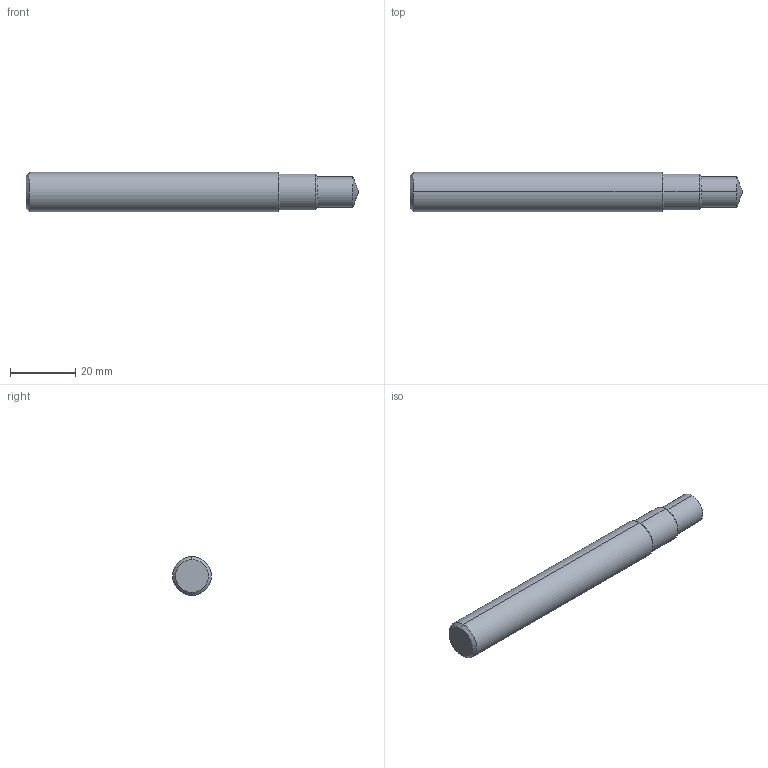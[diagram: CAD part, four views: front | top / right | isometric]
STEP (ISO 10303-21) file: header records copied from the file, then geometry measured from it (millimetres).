
FILE_DESCRIPTION (( 'STEP AP203' ), '1' );
FILE_NAME ('407028-RD-SAE-04A.STEP', '2024-10-02T17:34:27', ( '' ), ( '' ), 'SwSTEP 2.0', 'SolidWorks 2024', '' );
FILE_SCHEMA (( 'CONFIG_CONTROL_DESIGN' ));
Length unit declared in the file: inch
Products named in the file (1): 407028-RD-SAE-04A
Bounding box: 102.01 x 12 x 12 mm (x, y, z)
Volume: 10682.5 mm3; surface area: 3841 mm2
Topology: 1 solids, 1 shells, 16 faces, 30 edges, 16 vertices
Faces by surface type: cone 8, cylinder 6, plane 2
Entity records: 473 total; most frequent: DIRECTION 80, CARTESIAN_POINT 63, ORIENTED_EDGE 60, AXIS2_PLACEMENT_3D 33, EDGE_CURVE 30, CIRCLE 16, EDGE_LOOP 16, FACE_OUTER_BOUND 16
